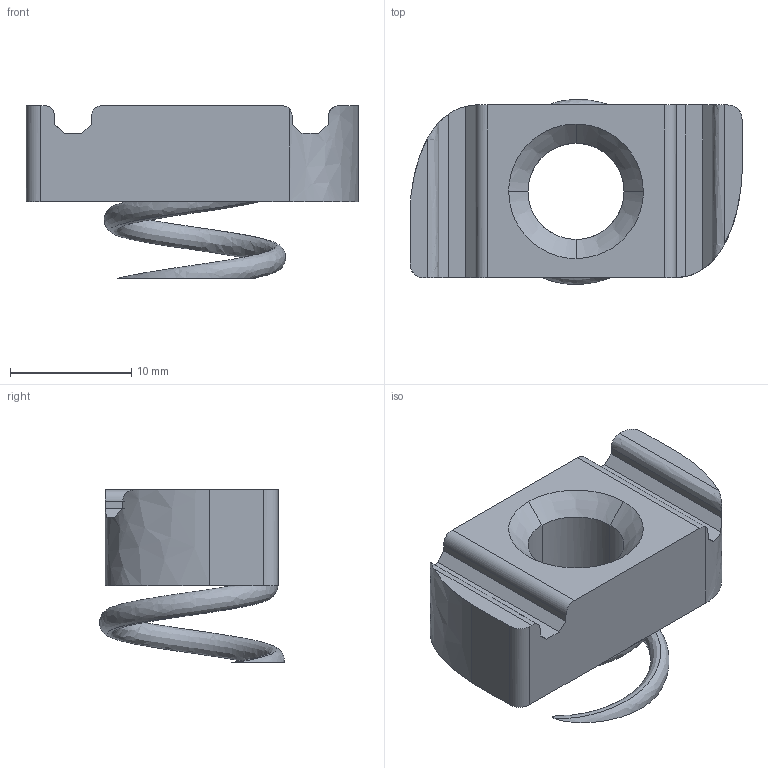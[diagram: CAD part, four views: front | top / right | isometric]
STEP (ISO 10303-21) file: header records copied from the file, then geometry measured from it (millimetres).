
FILE_DESCRIPTION(('TurboCAD Mac Pro'),'Build 980');
FILE_NAME('A4007.stp',' ',(''),(''),'ACIS Interop','IMSI','TurboCAD Mac Pro BY IMSI, INCORPORATED');
FILE_SCHEMA(('automotive_design'));
Length unit declared in the file: inch
Products named in the file (1): 1
Bounding box: 27.43 x 15.27 x 14.28 mm (x, y, z)
Volume: 2429.2 mm3; surface area: 1716.3 mm2
Topology: 1 solids, 1 shells, 37 faces, 98 edges, 64 vertices
Faces by surface type: plane 19, bspline 18
Entity records: 2635 total; most frequent: CARTESIAN_POINT 1537, ORIENTED_EDGE 196, EDGE_CURVE 98, DIRECTION 92, VERTEX_POINT 64, LINE 52, VECTOR 52, B_SPLINE_CURVE_WITH_KNOTS 46
